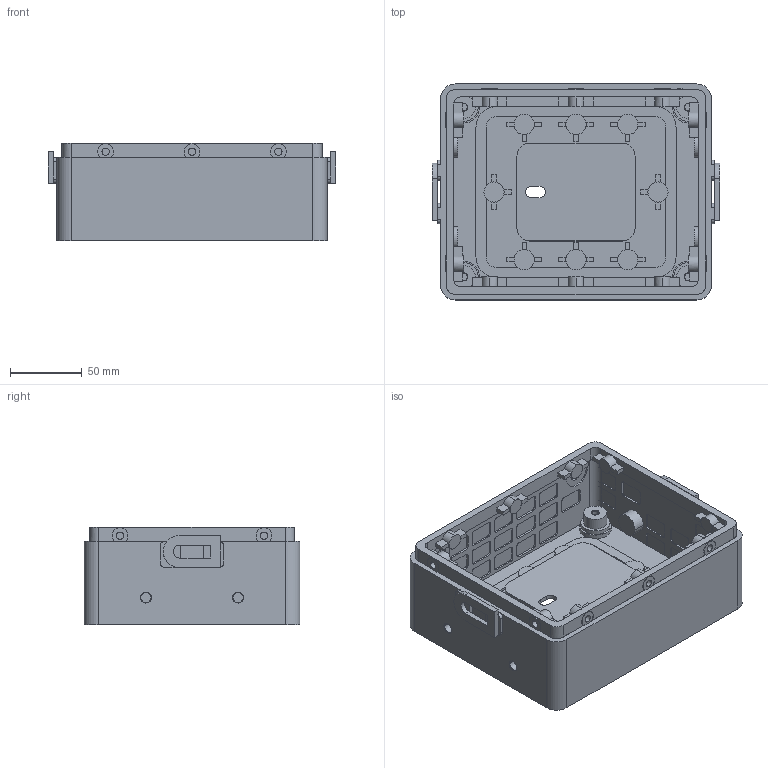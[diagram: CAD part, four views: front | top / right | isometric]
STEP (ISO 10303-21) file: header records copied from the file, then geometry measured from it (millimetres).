
FILE_DESCRIPTION(('CATIA V5 STEP Exchange','CAx-IF Rec.Pracs.--- Model Styling and Organization---1.5--- 2016-08-15','CAx-IF Rec.Pracs.---Supplemental Geometry---1.0---2011-11-01','CAx-IF Rec.Pracs.--- Composite Materials ---3.4---2017-06-13','CAx-IF Rec.Pracs.---Tessellated 3D Geometry---1.0---2015-12-17'),'2;1');
FILE_NAME('C:\Users\icemi\Desktop\RZS_Repository\RES\catia_macros\generated\RES_Enclosure_20260730_140208\RES_MainHousing.stp','2026-07-30T06:02:33+00:00',('none'),('none'),'CATIA Version 5-6 Release 2022 SP6','CATIA V5 STEP AP242 v3','none');
FILE_SCHEMA(('AP242_MANAGED_MODEL_BASED_3D_ENGINEERING_MIM_LF {1 0 10303 442 1 1 4}'));
Length unit declared in the file: millimetre
Products named in the file (1): Part78
Bounding box: 200 x 150 x 68 mm (x, y, z)
Volume: 325324.2 mm3; surface area: 186769.8 mm2
Topology: 1 solids, 1 shells, 1188 faces, 3201 edges, 2117 vertices
Faces by surface type: plane 714, cylinder 474
Entity records: 32492 total; most frequent: ORIENTED_EDGE 6402, CARTESIAN_POINT 5721, DIRECTION 4005, EDGE_CURVE 3201, VERTEX_POINT 2117, VECTOR 2083, LINE 2083, AXIS2_PLACEMENT_3D 1521
